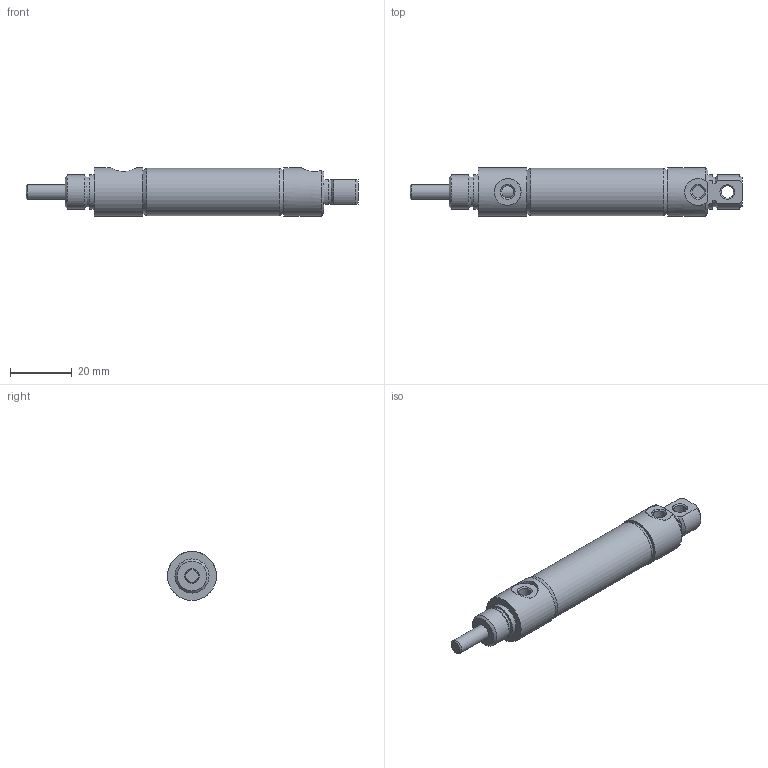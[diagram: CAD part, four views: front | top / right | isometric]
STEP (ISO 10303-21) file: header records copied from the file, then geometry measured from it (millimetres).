
FILE_DESCRIPTION( ( 'STEP AP214' ), '1' );
FILE_NAME( 'p:/temp/worker_416/temp/exporttempdir_420_181_qByU1/format_0/0563D02-01A.stp', '2020-05-07T12:50:40', ( 'License CC BY-ND 4.0' ), ( 'CADENAS' ), ' ', 'PARTsolutions', ' ' );
FILE_SCHEMA( ( 'AUTOMOTIVE_DESIGN { 1 0 10303 214 1 1 1 1 }' ) );
Length unit declared in the file: inch
Products named in the file (3): 0563D02-01A; _0563D02-01A-0000A00A0b; _0563D02-01A-0000A00A0r
Assembly tree (2 placements, depth 2):
  0563D02-01A
    _0563D02-01A-0000A00A0b
    _0563D02-01A-0000A00A0r
Bounding box: 107.98 x 15.88 x 15.88 mm (x, y, z)
Volume: 12190.2 mm3; surface area: 9773.3 mm2
Topology: 2 solids, 2 shells, 58 faces, 120 edges, 77 vertices
Faces by surface type: cylinder 22, plane 22, cone 14
Full cylindrical faces by diameter (mm): 3.967 x2, 3.988 x1, 4.775 x2, 4.826 x1, 8.738 x1, 9.601 x1, 11.1 x2, 14.287 x2, 15.392 x1, 15.875 x2
Entity records: 2087 total; most frequent: CARTESIAN_POINT 422, DIRECTION 253, ORIENTED_EDGE 186, AXIS2_PLACEMENT_3D 115, EDGE_LOOP 97, EDGE_CURVE 93, VERTEX_POINT 74, FACE_OUTER_BOUND 73
